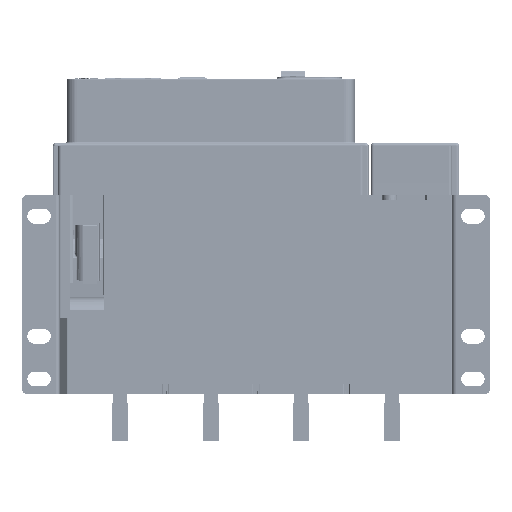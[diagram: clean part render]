
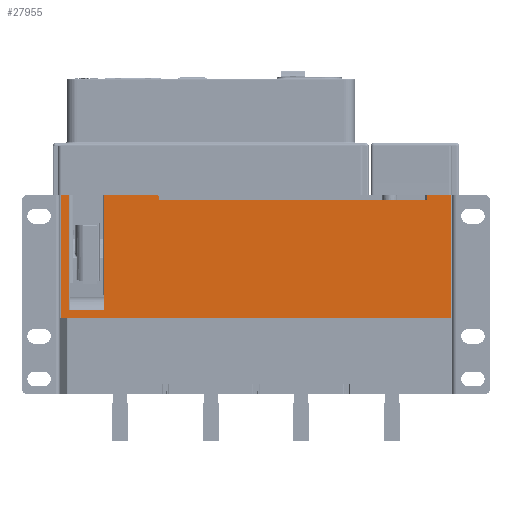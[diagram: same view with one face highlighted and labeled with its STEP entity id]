
A CAD part, front view. The second image highlights one B-rep face of the part: STEP entity #27955.
In plain terms, the highlighted planar face has unit normal (0, -1, 0).
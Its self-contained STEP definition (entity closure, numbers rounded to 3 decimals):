
#21=DIRECTION('',(1.,0.,0.));
#22=VECTOR('',#21,6.);
#23=CARTESIAN_POINT('',(-309.969,-639.732,153.8));
#24=LINE('',#23,#22);
#25=CARTESIAN_POINT('',(-303.969,-639.732,151.8));
#26=DIRECTION('',(0.,1.,0.));
#27=DIRECTION('',(0.,0.,1.));
#28=AXIS2_PLACEMENT_3D('',#25,#26,#27);
#30=DIRECTION('',(0.,0.,-1.));
#31=VECTOR('',#30,106.);
#32=CARTESIAN_POINT('',(-301.969,-639.732,151.8));
#33=LINE('',#32,#31);
#34=DIRECTION('',(1.,0.,0.));
#35=VECTOR('',#34,32.4);
#36=CARTESIAN_POINT('',(-301.969,-639.732,45.8));
#37=LINE('',#36,#35);
#38=DIRECTION('',(0.,0.,1.));
#39=VECTOR('',#38,106.);
#40=CARTESIAN_POINT('',(-269.569,-639.732,45.8));
#41=LINE('',#40,#39);
#42=CARTESIAN_POINT('',(-267.569,-639.732,151.8));
#43=DIRECTION('',(0.,1.,0.));
#44=DIRECTION('',(-1.,0.,0.));
#45=AXIS2_PLACEMENT_3D('',#42,#43,#44);
#47=DIRECTION('',(1.,0.,0.));
#48=VECTOR('',#47,10.);
#49=CARTESIAN_POINT('',(-267.569,-639.732,153.8));
#50=LINE('',#49,#48);
#51=DIRECTION('',(0.,0.,1.));
#52=VECTOR('',#51,1.);
#53=CARTESIAN_POINT('',(-257.569,-639.732,153.8));
#54=LINE('',#53,#52);
#55=DIRECTION('',(1.,0.,0.));
#56=VECTOR('',#55,9.3);
#57=CARTESIAN_POINT('',(-257.569,-639.732,154.8));
#58=LINE('',#57,#56);
#59=DIRECTION('',(0.,0.,-1.));
#60=VECTOR('',#59,1.);
#61=CARTESIAN_POINT('',(-248.269,-639.732,154.8));
#62=LINE('',#61,#60);
#63=DIRECTION('',(1.,0.,0.));
#64=VECTOR('',#63,12.4);
#65=CARTESIAN_POINT('',(-248.269,-639.732,153.8));
#66=LINE('',#65,#64);
#67=DIRECTION('',(0.,0.,1.));
#68=VECTOR('',#67,1.);
#69=CARTESIAN_POINT('',(-235.869,-639.732,153.8));
#70=LINE('',#69,#68);
#71=DIRECTION('',(1.,0.,0.));
#72=VECTOR('',#71,2.8);
#73=CARTESIAN_POINT('',(-235.869,-639.732,154.8));
#74=LINE('',#73,#72);
#75=DIRECTION('',(0.,0.,-1.));
#76=VECTOR('',#75,1.);
#77=CARTESIAN_POINT('',(-233.069,-639.732,154.8));
#78=LINE('',#77,#76);
#79=DIRECTION('',(1.,0.,0.));
#80=VECTOR('',#79,13.1);
#81=CARTESIAN_POINT('',(-233.069,-639.732,153.8));
#82=LINE('',#81,#80);
#83=CARTESIAN_POINT('',(-219.969,-639.732,151.8));
#84=DIRECTION('',(0.,1.,0.));
#85=DIRECTION('',(0.,0.,1.));
#86=AXIS2_PLACEMENT_3D('',#83,#84,#85);
#88=DIRECTION('',(0.,0.,-1.));
#89=VECTOR('',#88,3.);
#90=CARTESIAN_POINT('',(-217.969,-639.732,151.8));
#91=LINE('',#90,#89);
#92=CARTESIAN_POINT('',(35.031,-639.732,151.8));
#93=DIRECTION('',(0.,1.,0.));
#94=DIRECTION('',(-1.,0.,0.));
#95=AXIS2_PLACEMENT_3D('',#92,#93,#94);
#143=DIRECTION('',(1.,0.,0.));
#144=VECTOR('',#143,366.);
#145=CARTESIAN_POINT('',(-309.969,-639.732,38.8));
#146=LINE('',#145,#144);
#14471=DIRECTION('',(0.,0.,1.));
#14472=VECTOR('',#14471,115.);
#14473=CARTESIAN_POINT('',(56.031,-639.732,
38.8));
#14474=LINE('',#14473,#14472);
#14500=DIRECTION('',(-1.,0.,0.));
#14501=VECTOR('',#14500,21.);
#14502=CARTESIAN_POINT('',(56.031,-639.732,
153.8));
#14503=LINE('',#14502,#14501);
#14620=DIRECTION('',(0.,0.,-1.));
#14621=VECTOR('',#14620,3.);
#14622=CARTESIAN_POINT('',(33.031,-639.732,
151.8));
#14623=LINE('',#14622,#14621);
#14628=DIRECTION('',(-1.,0.,0.));
#14629=VECTOR('',#14628,251.);
#14630=CARTESIAN_POINT('',(33.031,-639.732,
148.8));
#14631=LINE('',#14630,#14629);
#15394=DIRECTION('',(0.,0.,-1.));
#15395=VECTOR('',#15394,115.);
#15396=CARTESIAN_POINT('',(-309.969,-639.732,
153.8));
#15397=LINE('',#15396,#15395);
#22143=CARTESIAN_POINT('',(-309.969,-639.732,
38.8));
#22144=VERTEX_POINT('',#22143);
#22145=CARTESIAN_POINT('',(56.031,-639.732,
38.8));
#22146=VERTEX_POINT('',#22145);
#26644=CARTESIAN_POINT('',(-303.969,-639.732,
153.8));
#26645=VERTEX_POINT('',#26644);
#26646=CARTESIAN_POINT('',(-309.969,-639.732,
153.8));
#26647=VERTEX_POINT('',#26646);
#26668=CARTESIAN_POINT('',(-301.969,-639.732,
151.8));
#26669=VERTEX_POINT('',#26668);
#26670=CARTESIAN_POINT('',(-301.969,-639.732,
45.8));
#26671=VERTEX_POINT('',#26670);
#26672=CARTESIAN_POINT('',(-269.569,-639.732,
45.8));
#26673=VERTEX_POINT('',#26672);
#26674=CARTESIAN_POINT('',(-269.569,-639.732,
151.8));
#26675=VERTEX_POINT('',#26674);
#26676=CARTESIAN_POINT('',(-267.569,-639.732,
153.8));
#26677=VERTEX_POINT('',#26676);
#26678=CARTESIAN_POINT('',(-257.569,-639.732,
153.8));
#26679=VERTEX_POINT('',#26678);
#26680=CARTESIAN_POINT('',(-257.569,-639.732,
154.8));
#26681=VERTEX_POINT('',#26680);
#26682=CARTESIAN_POINT('',(-248.269,-639.732,
154.8));
#26683=VERTEX_POINT('',#26682);
#26684=CARTESIAN_POINT('',(-248.269,-639.732,
153.8));
#26685=VERTEX_POINT('',#26684);
#26686=CARTESIAN_POINT('',(-235.869,-639.732,
153.8));
#26687=VERTEX_POINT('',#26686);
#26688=CARTESIAN_POINT('',(-235.869,-639.732,
154.8));
#26689=VERTEX_POINT('',#26688);
#26690=CARTESIAN_POINT('',(-233.069,-639.732,
154.8));
#26691=VERTEX_POINT('',#26690);
#26692=CARTESIAN_POINT('',(-233.069,-639.732,
153.8));
#26693=VERTEX_POINT('',#26692);
#26694=CARTESIAN_POINT('',(-219.969,-639.732,
153.8));
#26695=VERTEX_POINT('',#26694);
#26696=CARTESIAN_POINT('',(-217.969,-639.732,
151.8));
#26697=VERTEX_POINT('',#26696);
#26698=CARTESIAN_POINT('',(-217.969,-639.732,
148.8));
#26699=VERTEX_POINT('',#26698);
#26700=CARTESIAN_POINT('',(33.031,-639.732,
148.8));
#26701=VERTEX_POINT('',#26700);
#26702=CARTESIAN_POINT('',(33.031,-639.732,
151.8));
#26703=VERTEX_POINT('',#26702);
#26704=CARTESIAN_POINT('',(35.031,-639.732,
153.8));
#26705=VERTEX_POINT('',#26704);
#26706=CARTESIAN_POINT('',(56.031,-639.732,
153.8));
#26707=VERTEX_POINT('',#26706);
#27903=CARTESIAN_POINT('',(-311.669,-639.732,
38.1));
#27904=DIRECTION('',(0.,-1.,0.));
#27905=DIRECTION('',(1.,0.,0.));
#27906=AXIS2_PLACEMENT_3D('',#27903,#27904,#27905);
#27907=PLANE('',#27906);
#27909=ORIENTED_EDGE('',*,*,#27908,.F.);
#27911=ORIENTED_EDGE('',*,*,#27910,.F.);
#27913=ORIENTED_EDGE('',*,*,#27912,.T.);
#27915=ORIENTED_EDGE('',*,*,#27914,.T.);
#27917=ORIENTED_EDGE('',*,*,#27916,.T.);
#27919=ORIENTED_EDGE('',*,*,#27918,.T.);
#27921=ORIENTED_EDGE('',*,*,#27920,.T.);
#27923=ORIENTED_EDGE('',*,*,#27922,.T.);
#27925=ORIENTED_EDGE('',*,*,#27924,.T.);
#27927=ORIENTED_EDGE('',*,*,#27926,.T.);
#27929=ORIENTED_EDGE('',*,*,#27928,.T.);
#27931=ORIENTED_EDGE('',*,*,#27930,.T.);
#27933=ORIENTED_EDGE('',*,*,#27932,.T.);
#27935=ORIENTED_EDGE('',*,*,#27934,.T.);
#27937=ORIENTED_EDGE('',*,*,#27936,.T.);
#27938=ORIENTED_EDGE('',*,*,#27860,.T.);
#27939=ORIENTED_EDGE('',*,*,#27880,.T.);
#27940=ORIENTED_EDGE('',*,*,#27893,.T.);
#27942=ORIENTED_EDGE('',*,*,#27941,.T.);
#27944=ORIENTED_EDGE('',*,*,#27943,.F.);
#27946=ORIENTED_EDGE('',*,*,#27945,.F.);
#27948=ORIENTED_EDGE('',*,*,#27947,.T.);
#27950=ORIENTED_EDGE('',*,*,#27949,.F.);
#27952=ORIENTED_EDGE('',*,*,#27951,.F.);
#27953=EDGE_LOOP('',(#27909,#27911,#27913,#27915,#27917,#27919,#27921,#27923,
#27925,#27927,#27929,#27931,#27933,#27935,#27937,#27938,#27939,#27940,#27942,
#27944,#27946,#27948,#27950,#27952));
#27954=FACE_OUTER_BOUND('',#27953,.F.);
#27955=ADVANCED_FACE('',(#27954),#27907,.T.);
#29=CIRCLE('',#28,2.);
#46=CIRCLE('',#45,2.);
#87=CIRCLE('',#86,2.);
#96=CIRCLE('',#95,2.);
#27860=EDGE_CURVE('',#26691,#26693,#78,.T.);
#27880=EDGE_CURVE('',#26693,#26695,#82,.T.);
#27893=EDGE_CURVE('',#26695,#26697,#87,.T.);
#27908=EDGE_CURVE('',#22144,#22146,#146,.T.);
#27910=EDGE_CURVE('',#26647,#22144,#15397,.T.);
#27912=EDGE_CURVE('',#26647,#26645,#24,.T.);
#27914=EDGE_CURVE('',#26645,#26669,#29,.T.);
#27916=EDGE_CURVE('',#26669,#26671,#33,.T.);
#27918=EDGE_CURVE('',#26671,#26673,#37,.T.);
#27920=EDGE_CURVE('',#26673,#26675,#41,.T.);
#27922=EDGE_CURVE('',#26675,#26677,#46,.T.);
#27924=EDGE_CURVE('',#26677,#26679,#50,.T.);
#27926=EDGE_CURVE('',#26679,#26681,#54,.T.);
#27928=EDGE_CURVE('',#26681,#26683,#58,.T.);
#27930=EDGE_CURVE('',#26683,#26685,#62,.T.);
#27932=EDGE_CURVE('',#26685,#26687,#66,.T.);
#27934=EDGE_CURVE('',#26687,#26689,#70,.T.);
#27936=EDGE_CURVE('',#26689,#26691,#74,.T.);
#27941=EDGE_CURVE('',#26697,#26699,#91,.T.);
#27943=EDGE_CURVE('',#26701,#26699,#14631,.T.);
#27945=EDGE_CURVE('',#26703,#26701,#14623,.T.);
#27947=EDGE_CURVE('',#26703,#26705,#96,.T.);
#27949=EDGE_CURVE('',#26707,#26705,#14503,.T.);
#27951=EDGE_CURVE('',#22146,#26707,#14474,.T.);
